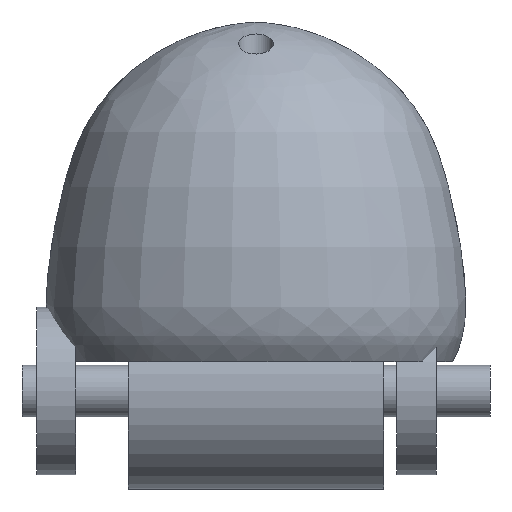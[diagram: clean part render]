
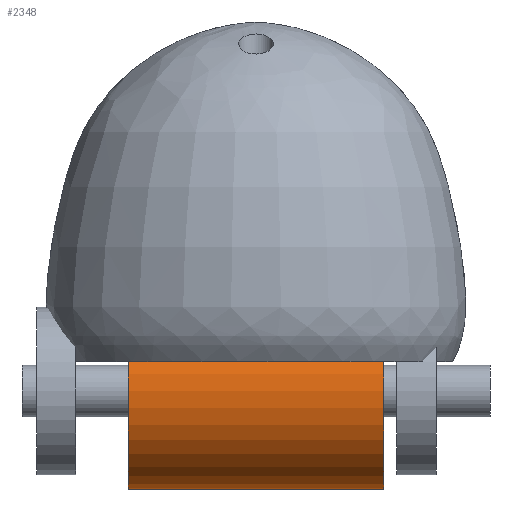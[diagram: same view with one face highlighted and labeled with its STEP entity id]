
A CAD part, left-side view. The second image highlights one B-rep face of the part: STEP entity #2348.
In plain terms, the highlighted cylindrical face has radius 4 mm (diameter 8 mm), a full revolution.
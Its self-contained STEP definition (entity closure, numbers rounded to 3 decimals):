
#2348 = ADVANCED_FACE('',(#2349),#2376,.T.);
#2349 = FACE_BOUND('',#2350,.T.);
#2350 = EDGE_LOOP('',(#2351,#2360,#2368,#2375));
#2351 = ORIENTED_EDGE('',*,*,#2352,.F.);
#2352 = EDGE_CURVE('',#2353,#2353,#2355,.T.);
#2353 = VERTEX_POINT('',#2354);
#2354 = CARTESIAN_POINT('',(0.,5.185,4.));
#2355 = CIRCLE('',#2356,4.);
#2356 = AXIS2_PLACEMENT_3D('',#2357,#2358,#2359);
#2357 = CARTESIAN_POINT('',(0.,5.185,0.));
#2358 = DIRECTION('',(0.,1.,0.));
#2359 = DIRECTION('',(0.,-0.,1.));
#2360 = ORIENTED_EDGE('',*,*,#2361,.F.);
#2361 = EDGE_CURVE('',#2362,#2353,#2364,.T.);
#2362 = VERTEX_POINT('',#2363);
#2363 = CARTESIAN_POINT('',(0.,-5.185,4.));
#2364 = LINE('',#2365,#2366);
#2365 = CARTESIAN_POINT('',(0.,-5.185,4.));
#2366 = VECTOR('',#2367,1.);
#2367 = DIRECTION('',(0.,1.,0.));
#2368 = ORIENTED_EDGE('',*,*,#2369,.T.);
#2369 = EDGE_CURVE('',#2362,#2362,#2370,.T.);
#2370 = CIRCLE('',#2371,4.);
#2371 = AXIS2_PLACEMENT_3D('',#2372,#2373,#2374);
#2372 = CARTESIAN_POINT('',(0.,-5.185,0.));
#2373 = DIRECTION('',(0.,1.,0.));
#2374 = DIRECTION('',(0.,-0.,1.));
#2375 = ORIENTED_EDGE('',*,*,#2361,.T.);
#2376 = CYLINDRICAL_SURFACE('',#2377,4.);
#2377 = AXIS2_PLACEMENT_3D('',#2378,#2379,#2380);
#2378 = CARTESIAN_POINT('',(0.,-5.185,0.));
#2379 = DIRECTION('',(0.,1.,0.));
#2380 = DIRECTION('',(0.,-0.,1.));
